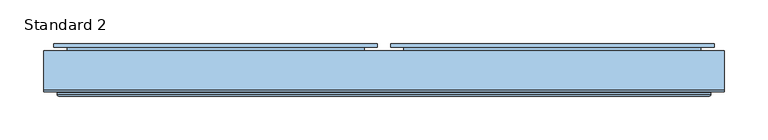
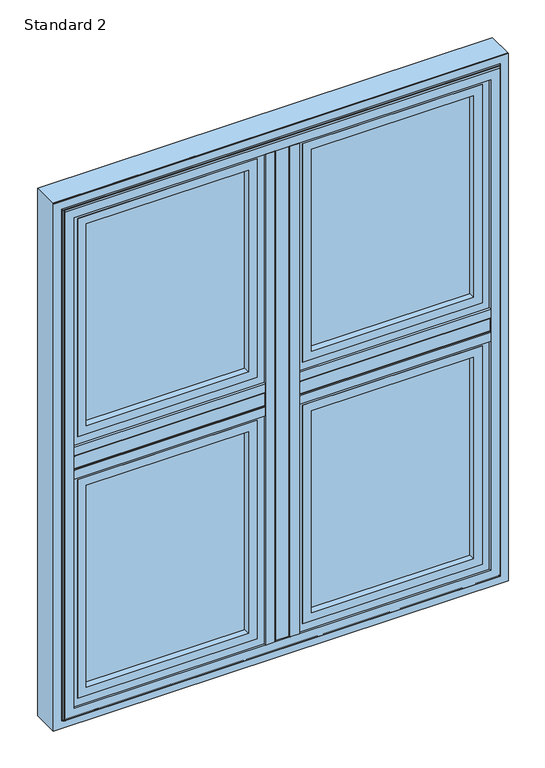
"""IFC4 building model written with IfcOpenShell, lengths in millimetres: window geometry, SMARTS_AlithermHeritage : Standard 2."""

from ifc_helpers import new_model, si_unit, point, frame, frame_2d, origin, place, context, project, spatial, polyline, circle_curve, ellipse_curve, trimmed, segment, composite_curve, outline, extrude, source, transform, mapped, element, save
from ifc_brep_helpers import plane_surface, cylinder_surface, revolved_surface, advanced_brep


def standard_2_6dee1fca(model_context):
    return source(origin(), model_context, "Body", "SolidModel", [
        extrude(outline(polyline([(-13.6941456, 95.2798432), (13.6941456, 95.2798432), (13.6941456, 47.279476), (-13.6941456, 47.279476), (-13.6941456, 95.2798432)])), frame((0.0, 0.0, 652.6941456), z_axis=(0.0, 0.0, 1.0), x_axis=(1.0, 0.0, 0.0)), (0.0, 0.0, 1.0), 919.6117089),
        extrude(outline(composite_curve([segment(polyline([(-29.0, 47.279476), (29.0, 47.279476), (29.0, 43.2798432), (13.0, 43.2798432)]), True, "CONTINUOUS"), segment(trimmed(circle_curve(frame_2d((13.0, 44.2798432)), 1.0), [point((13.0, 43.2798432))], [point((12.0, 44.2798432))], False, "CARTESIAN"), True, "CONTINUOUS"), segment(polyline([(12.0, 44.2798432), (12.0, 45.7798432), (-12.0, 45.7798432), (-12.0, 44.2798432)]), True, "CONTINUOUS"), segment(trimmed(circle_curve(frame_2d((-13.0, 44.2798432)), 1.0), [point((-12.0, 44.2798432))], [point((-13.0, 43.2798432))], False, "CARTESIAN"), True, "CONTINUOUS"), segment(polyline([(-13.0, 43.2798432), (-29.0, 43.2798432), (-29.0, 47.279476)]), True, "CONTINUOUS")], self_intersect=False)), frame((0.0, 0.0, 668.0), z_axis=(0.0, 0.0, 1.0), x_axis=(1.0, 0.0, 0.0)), (0.0, 0.0, 1.0), 889.0),
        extrude(outline(polyline([(-13.6941456, 95.2798432), (-13.6941456, 47.279476), (-372.3058544, 47.279476), (-372.3058544, 95.2798432), (-13.6941456, 95.2798432)])), frame((0.0, 0.0, 1098.8058544), z_axis=(0.0, 0.0, 1.0), x_axis=(1.0, 0.0, 0.0)), (0.0, 0.0, 1.0), 27.3882911),
        extrude(outline(composite_curve([segment(polyline([(47.279476, 1083.5), (43.2798432, 1083.5), (43.2798432, 1099.5)]), True, "CONTINUOUS"), segment(trimmed(circle_curve(frame_2d((44.2798432, 1099.5)), 1.0), [point((43.2798432, 1099.5))], [point((44.2798432, 1100.5))], False, "CARTESIAN"), True, "CONTINUOUS"), segment(polyline([(44.2798432, 1100.5), (45.7798432, 1100.5), (45.7798432, 1124.5), (44.2798432, 1124.5)]), True, "CONTINUOUS"), segment(trimmed(circle_curve(frame_2d((44.2798432, 1125.5)), 1.0), [point((44.2798432, 1124.5))], [point((43.2798432, 1125.5))], False, "CARTESIAN"), True, "CONTINUOUS"), segment(polyline([(43.2798432, 1125.5), (43.2798432, 1141.5), (47.279476, 1141.5), (47.279476, 1083.5)]), True, "CONTINUOUS")], self_intersect=False)), frame((-357.0, 0.0, 0.0), z_axis=(1.0, 0.0, 0.0), x_axis=(0.0, 1.0, 0.0)), (0.0, 0.0, 1.0), 328.0),
        extrude(outline(polyline([(372.3058544, 95.2798432), (372.3058544, 47.279476), (13.6941456, 47.279476), (13.6941456, 95.2798432), (372.3058544, 95.2798432)])), frame((0.0, 0.0, 1098.8058544), z_axis=(0.0, 0.0, 1.0), x_axis=(1.0, 0.0, 0.0)), (0.0, 0.0, 1.0), 27.3882911),
        extrude(outline(composite_curve([segment(polyline([(47.279476, 1083.5), (43.2798432, 1083.5), (43.2798432, 1099.5)]), True, "CONTINUOUS"), segment(trimmed(circle_curve(frame_2d((44.2798432, 1099.5)), 1.0), [point((43.2798432, 1099.5))], [point((44.2798432, 1100.5))], False, "CARTESIAN"), True, "CONTINUOUS"), segment(polyline([(44.2798432, 1100.5), (45.7798432, 1100.5), (45.7798432, 1124.5), (44.2798432, 1124.5)]), True, "CONTINUOUS"), segment(trimmed(circle_curve(frame_2d((44.2798432, 1125.5)), 1.0), [point((44.2798432, 1124.5))], [point((43.2798432, 1125.5))], False, "CARTESIAN"), True, "CONTINUOUS"), segment(polyline([(43.2798432, 1125.5), (43.2798432, 1141.5), (47.279476, 1141.5), (47.279476, 1083.5)]), True, "CONTINUOUS")], self_intersect=False)), frame((29.0, 0.0, 0.0), z_axis=(1.0, 0.0, 0.0), x_axis=(0.0, 1.0, 0.0)), (0.0, 0.0, 1.0), 328.0),
        extrude(outline(polyline([(-343.5, 89.2798432), (-42.5, 89.2798432), (-42.5, 85.2798432), (-343.5, 85.2798432), (-343.5, 89.2798432)])), frame((0.0, 0.0, 681.5), z_axis=(0.0, 0.0, 1.0), x_axis=(1.0, 0.0, 0.0)), (0.0, 0.0, 1.0), 388.5),
        extrude(outline(polyline([(-343.5, 69.2798432), (-42.5, 69.2798432), (-42.5, 65.2798432), (-343.5, 65.2798432), (-343.5, 69.2798432)])), frame((0.0, 0.0, 681.5), z_axis=(0.0, 0.0, 1.0), x_axis=(1.0, 0.0, 0.0)), (0.0, 0.0, 1.0), 388.5),
        extrude(outline(polyline([(1070.0, -343.5), (681.5, -343.5), (681.5, -42.5), (1070.0, -42.5), (1070.0, -343.5)]), holes=[polyline([(1060.0, -52.5), (691.5, -52.5), (691.5, -333.5), (1060.0, -333.5), (1060.0, -52.5)])]), frame((0.0, 69.2798432, 0.0), z_axis=(0.0, 1.0, 0.0), x_axis=(0.0, 0.0, 1.0)), (0.0, 0.0, 1.0), 16.0),
        extrude(outline(polyline([(1073.5052956, -347.0052956), (677.9947044, -347.0052956), (677.9947044, -38.9947044), (1073.5052956, -38.9947044), (1073.5052956, -347.0052956)]), holes=[polyline([(1058.5, -54.0), (693.0, -54.0), (693.0, -332.0), (1058.5, -332.0), (1058.5, -54.0)])]), frame((0.0, 51.2798432, 0.0), z_axis=(0.0, 1.0, 0.0), x_axis=(0.0, 0.0, 1.0)), (0.0, 0.0, 1.0), 11.3),
        extrude(outline(polyline([(662.3548042, -362.6451958), (662.3548042, -23.3548042), (1089.1451958, -23.3548042), (1089.1451958, -362.6451958), (662.3548042, -362.6451958)]), holes=[polyline([(1073.5, -347.0), (1073.5, -39.0), (678.0, -39.0), (678.0, -347.0), (1073.5, -347.0)])]), frame((0.0, 51.2798432, 0.0), z_axis=(0.0, 1.0, 0.0), x_axis=(0.0, 0.0, 1.0)), (0.0, 0.0, 1.0), 41.6),
        advanced_brep(
        [(-332.0, 98.0798432, 1058.5), (-332.0, 92.8798432, 1058.5), (-332.0, 92.8798432, 693.0), (-332.0, 98.0798432, 693.0), (-54.0, 92.8798432, 693.0), (-54.0, 98.0798432, 693.0), (-54.0, 92.8798432, 1058.5), (-54.0, 98.0798432, 1058.5), (-378.2, 99.2798432, 1104.7), (-378.2, 103.2798432, 1104.7), (-378.2, 103.2798432, 646.8), (-378.2, 99.2798432, 646.8), (-7.8, 103.2798432, 646.8), (-7.8, 99.2798432, 646.8), (-7.8, 103.2798432, 1104.7), (-7.8, 99.2798432, 1104.7), (-363.1467657, 99.2798432, 1089.6467657), (-22.8532343, 99.2798432, 1089.6467657), (-22.8532343, 99.2798432, 661.8532343), (-363.1467657, 99.2798432, 661.8532343), (-349.2, 103.2798432, 675.8), (-36.8, 103.2798432, 675.8), (-36.8, 103.2798432, 1075.7), (-349.2, 103.2798432, 1075.7), (-363.1467657, 92.8798432, 1089.6467657), (-363.1467657, 92.8798432, 661.8532343), (-22.8532343, 92.8798432, 661.8532343), (-22.8532343, 92.8798432, 1089.6467657), (-347.2, 101.2798432, 1073.7), (-347.2, 100.0798432, 1073.7), (-347.2, 100.0798432, 677.8), (-347.2, 101.2798432, 677.8), (-345.2, 98.0798432, 1071.7), (-345.2, 98.0798432, 679.8), (-38.8, 100.0798432, 677.8), (-38.8, 101.2798432, 677.8), (-40.8, 98.0798432, 679.8), (-38.8, 100.0798432, 1073.7), (-38.8, 101.2798432, 1073.7), (-40.8, 98.0798432, 1071.7)],
        [
            (0, 1),
            (1, 2),
            (2, 3),
            (3, 0),
            (2, 4),
            (4, 5),
            (5, 3),
            (4, 6),
            (6, 7),
            (7, 5),
            (6, 1),
            (0, 7),
            (8, 9),
            (9, 10),
            (10, 11),
            (11, 8),
            (10, 12),
            (12, 13),
            (13, 11),
            (12, 14),
            (14, 15),
            (15, 13),
            (15, 8),
            (16, 17),
            (17, 18),
            (18, 19),
            (19, 16),
            (14, 9),
            (20, 21),
            (21, 22),
            (22, 23),
            (23, 20),
            (24, 16),
            (19, 25),
            (25, 24),
            (18, 26),
            (26, 25),
            (17, 27),
            (27, 26),
            (27, 24),
            (28, 29),
            (29, 30),
            (30, 31),
            (31, 28),
            (29, 32, ellipse_curve(frame((-345.2, 100.0798432, 1071.7), z_axis=(0.7071067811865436, 0.0, 0.7071067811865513), x_axis=(0.7071067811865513, 0.0, -0.7071067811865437)), 2.8284271, 2.0)),
            (32, 33),
            (33, 30, ellipse_curve(frame((-345.2, 100.0798432, 679.8), z_axis=(0.7071067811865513, 0.0, -0.7071067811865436), x_axis=(-0.7071067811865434, 0.0, -0.7071067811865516)), 2.8284271, 2.0)),
            (30, 34),
            (34, 35),
            (35, 31),
            (33, 36),
            (36, 34, ellipse_curve(frame((-40.8, 100.0798432, 679.8), z_axis=(0.7071067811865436, 0.0, 0.7071067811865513), x_axis=(0.7071067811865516, 0.0, -0.7071067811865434)), 2.8284271, 2.0)),
            (34, 37),
            (37, 38),
            (38, 35),
            (36, 39),
            (39, 37, ellipse_curve(frame((-40.8, 100.0798432, 1071.7), z_axis=(-0.7071067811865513, 0.0, 0.7071067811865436), x_axis=(0.7071067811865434, 0.0, 0.7071067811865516)), 2.8284271, 2.0)),
            (32, 39),
            (37, 29),
            (28, 38),
            (23, 28, ellipse_curve(frame((-349.2, 101.2798432, 1075.7), z_axis=(-0.7071067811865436, 0.0, -0.7071067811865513), x_axis=(-0.7071067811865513, 0.0, 0.7071067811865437)), 2.8284271, 2.0)),
            (31, 20, ellipse_curve(frame((-349.2, 101.2798432, 675.8), z_axis=(-0.7071067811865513, 0.0, 0.7071067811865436), x_axis=(0.7071067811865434, 0.0, 0.7071067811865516)), 2.8284271, 2.0)),
            (35, 21, ellipse_curve(frame((-36.8, 101.2798432, 675.8), z_axis=(-0.7071067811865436, 0.0, -0.7071067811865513), x_axis=(-0.7071067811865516, 0.0, 0.7071067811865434)), 2.8284271, 2.0)),
            (38, 22, ellipse_curve(frame((-36.8, 101.2798432, 1075.7), z_axis=(0.7071067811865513, 0.0, -0.7071067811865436), x_axis=(-0.7071067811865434, 0.0, -0.7071067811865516)), 2.8284271, 2.0)),
        ],
        [
            plane_surface(frame((-332.0, 92.8798432, 1058.5), z_axis=(1.0, 0.0, 0.0), x_axis=(0.0, 0.0, -1.0))),
            plane_surface(frame((-332.0, 92.8798432, 693.0), z_axis=(0.0, 0.0, 1.0), x_axis=(1.0, 0.0, 0.0))),
            plane_surface(frame((-54.0, 92.8798432, 693.0), z_axis=(-1.0, 0.0, 0.0), x_axis=(0.0, 0.0, 1.0))),
            plane_surface(frame((-54.0, 92.8798432, 1058.5), z_axis=(0.0, 0.0, -1.0), x_axis=(-1.0, 0.0, 0.0))),
            plane_surface(frame((-378.2, 103.2798432, 1104.7), z_axis=(-1.0, 0.0, 0.0), x_axis=(0.0, 0.0, -1.0))),
            plane_surface(frame((-378.2, 103.2798432, 646.8), z_axis=(0.0, 0.0, -1.0), x_axis=(1.0, 0.0, 0.0))),
            plane_surface(frame((-7.8, 103.2798432, 646.8), z_axis=(1.0, 0.0, 0.0), x_axis=(0.0, 0.0, 1.0))),
            plane_surface(frame((-7.8, 99.2798432, 1104.7), z_axis=(0.0, -1.0, 0.0), x_axis=(-1.0, 0.0, 0.0))),
            plane_surface(frame((-7.8, 103.2798432, 1104.7), z_axis=(0.0, 0.0, 1.0), x_axis=(-1.0, 0.0, 0.0))),
            plane_surface(frame((-36.8, 103.2798432, 1075.7), z_axis=(0.0, 1.0, 0.0), x_axis=(-1.0, 0.0, 0.0))),
            plane_surface(frame((-363.1467657, 99.2798432, 1089.6467657), z_axis=(-1.0, 0.0, 0.0), x_axis=(0.0, 0.0, -1.0))),
            plane_surface(frame((-363.1467657, 99.2798432, 661.8532343), z_axis=(0.0, 0.0, -1.0), x_axis=(1.0, 0.0, 0.0))),
            plane_surface(frame((-22.8532343, 99.2798432, 661.8532343), z_axis=(1.0, 0.0, 0.0), x_axis=(0.0, 0.0, 1.0))),
            plane_surface(frame((-22.8532343, 92.8798432, 1089.6467657), z_axis=(0.0, -1.0, 0.0), x_axis=(-1.0, 0.0, 0.0))),
            plane_surface(frame((-22.8532343, 99.2798432, 1089.6467657), z_axis=(0.0, 0.0, 1.0), x_axis=(-1.0, 0.0, 0.0))),
            plane_surface(frame((-347.2, 100.0798432, 1073.7), z_axis=(1.0, 0.0, 0.0), x_axis=(0.0, 0.0, -1.0))),
            revolved_surface(polyline([(-347.2, 100.0798432, 677.8), (-347.2, 100.0798432, 1073.7)]), (-345.2, 100.0798432, 1083.5), (0.0, 0.0, -1.0)),
            plane_surface(frame((-347.2, 100.0798432, 677.8), z_axis=(0.0, 0.0, 1.0), x_axis=(1.0, 0.0, 0.0))),
            revolved_surface(polyline([(-38.80000000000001, 100.0798432, 677.8), (-347.2, 100.0798432, 677.8)]), (-357.0, 100.0798432, 679.8), (1.0, 0.0, 0.0)),
            plane_surface(frame((-38.8, 100.0798432, 677.8), z_axis=(-1.0, 0.0, 0.0), x_axis=(0.0, 0.0, 1.0))),
            revolved_surface(polyline([(-38.8, 100.0798432, 1073.7), (-38.8, 100.0798432, 677.8)]), (-40.8, 100.0798432, 668.0), (0.0, 0.0, 1.0)),
            plane_surface(frame((-54.0, 98.0798432, 1058.5), z_axis=(0.0, 1.0, 0.0), x_axis=(-1.0, 0.0, 0.0))),
            plane_surface(frame((-38.8, 100.0798432, 1073.7), z_axis=(0.0, 0.0, -1.0), x_axis=(-1.0, 0.0, 0.0))),
            revolved_surface(polyline([(-347.2, 100.0798432, 1073.7), (-38.8, 100.0798432, 1073.7)]), (-29.0, 100.0798432, 1071.7), (-1.0, 0.0, 0.0)),
            cylinder_surface(frame((-349.2, 101.2798432, 1083.5), z_axis=(0.0, 0.0, 1.0), x_axis=(-1.0, 0.0, 0.0)), 2.0),
            cylinder_surface(frame((-357.0, 101.2798432, 675.8), z_axis=(-1.0, 0.0, 0.0), x_axis=(0.0, 0.0, -1.0)), 2.0),
            cylinder_surface(frame((-36.8, 101.2798432, 668.0), z_axis=(0.0, 0.0, -1.0), x_axis=(1.0, 0.0, 0.0)), 2.0),
            cylinder_surface(frame((-29.0, 101.2798432, 1075.7), z_axis=(1.0, 0.0, 0.0), x_axis=(0.0, 0.0, 1.0)), 2.0),
        ],
        [
            (0, [[1, 2, 3, 4]]),
            (1, [[-3, 5, 6, 7]]),
            (2, [[-6, 8, 9, 10]]),
            (3, [[-9, 11, -1, 12]]),
            (4, [[13, 14, 15, 16]]),
            (5, [[-15, 17, 18, 19]]),
            (6, [[-18, 20, 21, 22]]),
            (7, [[-19, -22, 23, -16], [24, 25, 26, 27]]),
            (8, [[-21, 28, -13, -23]]),
            (9, [[-28, -20, -17, -14], [29, 30, 31, 32]]),
            (10, [[33, -27, 34, 35]]),
            (11, [[-34, -26, 36, 37]]),
            (12, [[-36, -25, 38, 39]]),
            (13, [[-37, -39, 40, -35], [-11, -8, -5, -2]]),
            (14, [[-38, -24, -33, -40]]),
            (15, [[41, 42, 43, 44]]),
            (16, [[45, 46, 47, -42]]),
            (17, [[-43, 48, 49, 50]]),
            (18, [[-47, 51, 52, -48]]),
            (19, [[-49, 53, 54, 55]]),
            (20, [[-52, 56, 57, -53]]),
            (21, [[58, -56, -51, -46], [-7, -10, -12, -4]]),
            (22, [[-54, 59, -41, 60]]),
            (23, [[-57, -58, -45, -59]]),
            (24, [[61, -44, 62, -32]]),
            (25, [[-62, -50, 63, -29]]),
            (26, [[-63, -55, 64, -30]]),
            (27, [[-64, -60, -61, -31]]),
        ],
    ),
        extrude(outline(polyline([(-343.5, 89.2798432), (-42.5, 89.2798432), (-42.5, 85.2798432), (-343.5, 85.2798432), (-343.5, 89.2798432)])), frame((0.0, 0.0, 1155.0), z_axis=(0.0, 0.0, 1.0), x_axis=(1.0, 0.0, 0.0)), (0.0, 0.0, 1.0), 388.5),
        extrude(outline(polyline([(-343.5, 69.2798432), (-42.5, 69.2798432), (-42.5, 65.2798432), (-343.5, 65.2798432), (-343.5, 69.2798432)])), frame((0.0, 0.0, 1155.0), z_axis=(0.0, 0.0, 1.0), x_axis=(1.0, 0.0, 0.0)), (0.0, 0.0, 1.0), 388.5),
        extrude(outline(polyline([(1543.5, -343.5), (1155.0, -343.5), (1155.0, -42.5), (1543.5, -42.5), (1543.5, -343.5)]), holes=[polyline([(1533.5, -52.5), (1165.0, -52.5), (1165.0, -333.5), (1533.5, -333.5), (1533.5, -52.5)])]), frame((0.0, 69.2798432, 0.0), z_axis=(0.0, 1.0, 0.0), x_axis=(0.0, 0.0, 1.0)), (0.0, 0.0, 1.0), 16.0),
        extrude(outline(polyline([(1547.0052956, -347.0052956), (1151.4947044, -347.0052956), (1151.4947044, -38.9947044), (1547.0052956, -38.9947044), (1547.0052956, -347.0052956)]), holes=[polyline([(1532.0, -54.0), (1166.5, -54.0), (1166.5, -332.0), (1532.0, -332.0), (1532.0, -54.0)])]), frame((0.0, 51.2798432, 0.0), z_axis=(0.0, 1.0, 0.0), x_axis=(0.0, 0.0, 1.0)), (0.0, 0.0, 1.0), 11.3),
        extrude(outline(polyline([(1135.8548042, -362.6451958), (1135.8548042, -23.3548042), (1562.6451958, -23.3548042), (1562.6451958, -362.6451958), (1135.8548042, -362.6451958)]), holes=[polyline([(1547.0, -347.0), (1547.0, -39.0), (1151.5, -39.0), (1151.5, -347.0), (1547.0, -347.0)])]), frame((0.0, 51.2798432, 0.0), z_axis=(0.0, 1.0, 0.0), x_axis=(0.0, 0.0, 1.0)), (0.0, 0.0, 1.0), 41.6),
        advanced_brep(
        [(-332.0, 98.0798432, 1532.0), (-332.0, 92.8798432, 1532.0), (-332.0, 92.8798432, 1166.5), (-332.0, 98.0798432, 1166.5), (-54.0, 92.8798432, 1166.5), (-54.0, 98.0798432, 1166.5), (-54.0, 92.8798432, 1532.0), (-54.0, 98.0798432, 1532.0), (-378.2, 99.2798432, 1578.2), (-378.2, 103.2798432, 1578.2), (-378.2, 103.2798432, 1120.3), (-378.2, 99.2798432, 1120.3), (-7.8, 103.2798432, 1120.3), (-7.8, 99.2798432, 1120.3), (-7.8, 103.2798432, 1578.2), (-7.8, 99.2798432, 1578.2), (-363.1467657, 99.2798432, 1563.1467657), (-22.8532343, 99.2798432, 1563.1467657), (-22.8532343, 99.2798432, 1135.3532343), (-363.1467657, 99.2798432, 1135.3532343), (-349.2, 103.2798432, 1149.3), (-36.8, 103.2798432, 1149.3), (-36.8, 103.2798432, 1549.2), (-349.2, 103.2798432, 1549.2), (-363.1467657, 92.8798432, 1563.1467657), (-363.1467657, 92.8798432, 1135.3532343), (-22.8532343, 92.8798432, 1135.3532343), (-22.8532343, 92.8798432, 1563.1467657), (-347.2, 101.2798432, 1547.2), (-347.2, 100.0798432, 1547.2), (-347.2, 100.0798432, 1151.3), (-347.2, 101.2798432, 1151.3), (-345.2, 98.0798432, 1545.2), (-345.2, 98.0798432, 1153.3), (-38.8, 100.0798432, 1151.3), (-38.8, 101.2798432, 1151.3), (-40.8, 98.0798432, 1153.3), (-38.8, 100.0798432, 1547.2), (-38.8, 101.2798432, 1547.2), (-40.8, 98.0798432, 1545.2)],
        [
            (0, 1),
            (1, 2),
            (2, 3),
            (3, 0),
            (2, 4),
            (4, 5),
            (5, 3),
            (4, 6),
            (6, 7),
            (7, 5),
            (6, 1),
            (0, 7),
            (8, 9),
            (9, 10),
            (10, 11),
            (11, 8),
            (10, 12),
            (12, 13),
            (13, 11),
            (12, 14),
            (14, 15),
            (15, 13),
            (15, 8),
            (16, 17),
            (17, 18),
            (18, 19),
            (19, 16),
            (14, 9),
            (20, 21),
            (21, 22),
            (22, 23),
            (23, 20),
            (24, 16),
            (19, 25),
            (25, 24),
            (18, 26),
            (26, 25),
            (17, 27),
            (27, 26),
            (27, 24),
            (28, 29),
            (29, 30),
            (30, 31),
            (31, 28),
            (29, 32, ellipse_curve(frame((-345.2, 100.0798432, 1545.2), z_axis=(0.7071067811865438, 0.0, 0.7071067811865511), x_axis=(0.707106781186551, 0.0, -0.7071067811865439)), 2.8284271, 2.0)),
            (32, 33),
            (33, 30, ellipse_curve(frame((-345.2, 100.0798432, 1153.3), z_axis=(0.7071067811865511, 0.0, -0.7071067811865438), x_axis=(-0.7071067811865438, 0.0, -0.7071067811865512)), 2.8284271, 2.0)),
            (30, 34),
            (34, 35),
            (35, 31),
            (33, 36),
            (36, 34, ellipse_curve(frame((-40.8, 100.0798432, 1153.3), z_axis=(0.7071067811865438, 0.0, 0.7071067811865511), x_axis=(0.7071067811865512, 0.0, -0.7071067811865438)), 2.8284271, 2.0)),
            (34, 37),
            (37, 38),
            (38, 35),
            (36, 39),
            (39, 37, ellipse_curve(frame((-40.8, 100.0798432, 1545.2), z_axis=(-0.7071067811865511, 0.0, 0.7071067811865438), x_axis=(0.7071067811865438, 0.0, 0.7071067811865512)), 2.8284271, 2.0)),
            (32, 39),
            (37, 29),
            (28, 38),
            (23, 28, ellipse_curve(frame((-349.2, 101.2798432, 1549.2), z_axis=(-0.7071067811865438, 0.0, -0.7071067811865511), x_axis=(-0.707106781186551, 0.0, 0.7071067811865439)), 2.8284271, 2.0)),
            (31, 20, ellipse_curve(frame((-349.2, 101.2798432, 1149.3), z_axis=(-0.7071067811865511, 0.0, 0.7071067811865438), x_axis=(0.7071067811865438, 0.0, 0.7071067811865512)), 2.8284271, 2.0)),
            (35, 21, ellipse_curve(frame((-36.8, 101.2798432, 1149.3), z_axis=(-0.7071067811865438, 0.0, -0.7071067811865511), x_axis=(-0.7071067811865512, 0.0, 0.7071067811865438)), 2.8284271, 2.0)),
            (38, 22, ellipse_curve(frame((-36.8, 101.2798432, 1549.2), z_axis=(0.7071067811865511, 0.0, -0.7071067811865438), x_axis=(-0.7071067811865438, 0.0, -0.7071067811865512)), 2.8284271, 2.0)),
        ],
        [
            plane_surface(frame((-332.0, 92.8798432, 1532.0), z_axis=(1.0, 0.0, 0.0), x_axis=(0.0, 0.0, -1.0))),
            plane_surface(frame((-332.0, 92.8798432, 1166.5), z_axis=(0.0, 0.0, 1.0), x_axis=(1.0, 0.0, 0.0))),
            plane_surface(frame((-54.0, 92.8798432, 1166.5), z_axis=(-1.0, 0.0, 0.0), x_axis=(0.0, 0.0, 1.0))),
            plane_surface(frame((-54.0, 92.8798432, 1532.0), z_axis=(0.0, 0.0, -1.0), x_axis=(-1.0, 0.0, 0.0))),
            plane_surface(frame((-378.2, 103.2798432, 1578.2), z_axis=(-1.0, 0.0, 0.0), x_axis=(0.0, 0.0, -1.0))),
            plane_surface(frame((-378.2, 103.2798432, 1120.3), z_axis=(0.0, 0.0, -1.0), x_axis=(1.0, 0.0, 0.0))),
            plane_surface(frame((-7.8, 103.2798432, 1120.3), z_axis=(1.0, 0.0, 0.0), x_axis=(0.0, 0.0, 1.0))),
            plane_surface(frame((-7.8, 99.2798432, 1578.2), z_axis=(0.0, -1.0, 0.0), x_axis=(-1.0, 0.0, 0.0))),
            plane_surface(frame((-7.8, 103.2798432, 1578.2), z_axis=(0.0, 0.0, 1.0), x_axis=(-1.0, 0.0, 0.0))),
            plane_surface(frame((-36.8, 103.2798432, 1549.2), z_axis=(0.0, 1.0, 0.0), x_axis=(-1.0, 0.0, 0.0))),
            plane_surface(frame((-363.1467657, 99.2798432, 1563.1467657), z_axis=(-1.0, 0.0, 0.0), x_axis=(0.0, 0.0, -1.0))),
            plane_surface(frame((-363.1467657, 99.2798432, 1135.3532343), z_axis=(0.0, 0.0, -1.0), x_axis=(1.0, 0.0, 0.0))),
            plane_surface(frame((-22.8532343, 99.2798432, 1135.3532343), z_axis=(1.0, 0.0, 0.0), x_axis=(0.0, 0.0, 1.0))),
            plane_surface(frame((-22.8532343, 92.8798432, 1563.1467657), z_axis=(0.0, -1.0, 0.0), x_axis=(-1.0, 0.0, 0.0))),
            plane_surface(frame((-22.8532343, 99.2798432, 1563.1467657), z_axis=(0.0, 0.0, 1.0), x_axis=(-1.0, 0.0, 0.0))),
            plane_surface(frame((-347.2, 100.0798432, 1547.2), z_axis=(1.0, 0.0, 0.0), x_axis=(0.0, 0.0, -1.0))),
            revolved_surface(polyline([(-347.2, 100.0798432, 1151.3), (-347.2, 100.0798432, 1547.2)]), (-345.2, 100.0798432, 1557.0), (0.0, 0.0, -1.0)),
            plane_surface(frame((-347.2, 100.0798432, 1151.3), z_axis=(0.0, 0.0, 1.0), x_axis=(1.0, 0.0, 0.0))),
            revolved_surface(polyline([(-38.80000000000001, 100.0798432, 1151.3), (-347.2, 100.0798432, 1151.3)]), (-357.0, 100.0798432, 1153.3), (1.0, 0.0, 0.0)),
            plane_surface(frame((-38.8, 100.0798432, 1151.3), z_axis=(-1.0, 0.0, 0.0), x_axis=(0.0, 0.0, 1.0))),
            revolved_surface(polyline([(-38.8, 100.0798432, 1547.2), (-38.8, 100.0798432, 1151.3)]), (-40.8, 100.0798432, 1141.5), (0.0, 0.0, 1.0)),
            plane_surface(frame((-54.0, 98.0798432, 1532.0), z_axis=(0.0, 1.0, 0.0), x_axis=(-1.0, 0.0, 0.0))),
            plane_surface(frame((-38.8, 100.0798432, 1547.2), z_axis=(0.0, 0.0, -1.0), x_axis=(-1.0, 0.0, 0.0))),
            revolved_surface(polyline([(-347.2, 100.0798432, 1547.2), (-38.8, 100.0798432, 1547.2)]), (-29.0, 100.0798432, 1545.2), (-1.0, 0.0, 0.0)),
            cylinder_surface(frame((-349.2, 101.2798432, 1557.0), z_axis=(0.0, 0.0, 1.0), x_axis=(-1.0, 0.0, 0.0)), 2.0),
            cylinder_surface(frame((-357.0, 101.2798432, 1149.3), z_axis=(-1.0, 0.0, 0.0), x_axis=(0.0, 0.0, -1.0)), 2.0),
            cylinder_surface(frame((-36.8, 101.2798432, 1141.5), z_axis=(0.0, 0.0, -1.0), x_axis=(1.0, 0.0, 0.0)), 2.0),
            cylinder_surface(frame((-29.0, 101.2798432, 1549.2), z_axis=(1.0, 0.0, 0.0), x_axis=(0.0, 0.0, 1.0)), 2.0),
        ],
        [
            (0, [[1, 2, 3, 4]]),
            (1, [[-3, 5, 6, 7]]),
            (2, [[-6, 8, 9, 10]]),
            (3, [[-9, 11, -1, 12]]),
            (4, [[13, 14, 15, 16]]),
            (5, [[-15, 17, 18, 19]]),
            (6, [[-18, 20, 21, 22]]),
            (7, [[-19, -22, 23, -16], [24, 25, 26, 27]]),
            (8, [[-21, 28, -13, -23]]),
            (9, [[-28, -20, -17, -14], [29, 30, 31, 32]]),
            (10, [[33, -27, 34, 35]]),
            (11, [[-34, -26, 36, 37]]),
            (12, [[-36, -25, 38, 39]]),
            (13, [[-37, -39, 40, -35], [-11, -8, -5, -2]]),
            (14, [[-38, -24, -33, -40]]),
            (15, [[41, 42, 43, 44]]),
            (16, [[45, 46, 47, -42]]),
            (17, [[-43, 48, 49, 50]]),
            (18, [[-47, 51, 52, -48]]),
            (19, [[-49, 53, 54, 55]]),
            (20, [[-52, 56, 57, -53]]),
            (21, [[58, -56, -51, -46], [-7, -10, -12, -4]]),
            (22, [[-54, 59, -41, 60]]),
            (23, [[-57, -58, -45, -59]]),
            (24, [[61, -44, 62, -32]]),
            (25, [[-62, -50, 63, -29]]),
            (26, [[-63, -55, 64, -30]]),
            (27, [[-64, -60, -61, -31]]),
        ],
    ),
        extrude(outline(polyline([(42.5, 89.2798432), (343.5, 89.2798432), (343.5, 85.2798432), (42.5, 85.2798432), (42.5, 89.2798432)])), frame((0.0, 0.0, 681.5), z_axis=(0.0, 0.0, 1.0), x_axis=(1.0, 0.0, 0.0)), (0.0, 0.0, 1.0), 388.5),
        extrude(outline(polyline([(42.5, 69.2798432), (343.5, 69.2798432), (343.5, 65.2798432), (42.5, 65.2798432), (42.5, 69.2798432)])), frame((0.0, 0.0, 681.5), z_axis=(0.0, 0.0, 1.0), x_axis=(1.0, 0.0, 0.0)), (0.0, 0.0, 1.0), 388.5),
        extrude(outline(polyline([(1070.0, 42.5), (681.5, 42.5), (681.5, 343.5), (1070.0, 343.5), (1070.0, 42.5)]), holes=[polyline([(1060.0, 333.5), (691.5, 333.5), (691.5, 52.5), (1060.0, 52.5), (1060.0, 333.5)])]), frame((0.0, 69.2798432, 0.0), z_axis=(0.0, 1.0, 0.0), x_axis=(0.0, 0.0, 1.0)), (0.0, 0.0, 1.0), 16.0),
        extrude(outline(polyline([(1073.5052956, 38.9947044), (677.9947044, 38.9947044), (677.9947044, 347.0052956), (1073.5052956, 347.0052956), (1073.5052956, 38.9947044)]), holes=[polyline([(1058.5, 332.0), (693.0, 332.0), (693.0, 54.0), (1058.5, 54.0), (1058.5, 332.0)])]), frame((0.0, 51.2798432, 0.0), z_axis=(0.0, 1.0, 0.0), x_axis=(0.0, 0.0, 1.0)), (0.0, 0.0, 1.0), 11.3),
        extrude(outline(polyline([(662.3548042, 23.3548042), (662.3548042, 362.6451958), (1089.1451958, 362.6451958), (1089.1451958, 23.3548042), (662.3548042, 23.3548042)]), holes=[polyline([(1073.5, 39.0), (1073.5, 347.0), (678.0, 347.0), (678.0, 39.0), (1073.5, 39.0)])]), frame((0.0, 51.2798432, 0.0), z_axis=(0.0, 1.0, 0.0), x_axis=(0.0, 0.0, 1.0)), (0.0, 0.0, 1.0), 41.6),
        advanced_brep(
        [(54.0, 98.0798432, 1058.5), (54.0, 92.8798432, 1058.5), (54.0, 92.8798432, 693.0), (54.0, 98.0798432, 693.0), (332.0, 92.8798432, 693.0), (332.0, 98.0798432, 693.0), (332.0, 92.8798432, 1058.5), (332.0, 98.0798432, 1058.5), (7.8, 99.2798432, 1104.7), (7.8, 103.2798432, 1104.7), (7.8, 103.2798432, 646.8), (7.8, 99.2798432, 646.8), (378.2, 103.2798432, 646.8), (378.2, 99.2798432, 646.8), (378.2, 103.2798432, 1104.7), (378.2, 99.2798432, 1104.7), (22.8532343, 99.2798432, 1089.6467657), (363.1467657, 99.2798432, 1089.6467657), (363.1467657, 99.2798432, 661.8532343), (22.8532343, 99.2798432, 661.8532343), (36.8, 103.2798432, 675.8), (349.2, 103.2798432, 675.8), (349.2, 103.2798432, 1075.7), (36.8, 103.2798432, 1075.7), (22.8532343, 92.8798432, 1089.6467657), (22.8532343, 92.8798432, 661.8532343), (363.1467657, 92.8798432, 661.8532343), (363.1467657, 92.8798432, 1089.6467657), (38.8, 101.2798432, 1073.7), (38.8, 100.0798432, 1073.7), (38.8, 100.0798432, 677.8), (38.8, 101.2798432, 677.8), (40.8, 98.0798432, 1071.7), (40.8, 98.0798432, 679.8), (347.2, 100.0798432, 677.8), (347.2, 101.2798432, 677.8), (345.2, 98.0798432, 679.8), (347.2, 100.0798432, 1073.7), (347.2, 101.2798432, 1073.7), (345.2, 98.0798432, 1071.7)],
        [
            (0, 1),
            (1, 2),
            (2, 3),
            (3, 0),
            (2, 4),
            (4, 5),
            (5, 3),
            (4, 6),
            (6, 7),
            (7, 5),
            (6, 1),
            (0, 7),
            (8, 9),
            (9, 10),
            (10, 11),
            (11, 8),
            (10, 12),
            (12, 13),
            (13, 11),
            (12, 14),
            (14, 15),
            (15, 13),
            (15, 8),
            (16, 17),
            (17, 18),
            (18, 19),
            (19, 16),
            (14, 9),
            (20, 21),
            (21, 22),
            (22, 23),
            (23, 20),
            (24, 16),
            (19, 25),
            (25, 24),
            (18, 26),
            (26, 25),
            (17, 27),
            (27, 26),
            (27, 24),
            (28, 29),
            (29, 30),
            (30, 31),
            (31, 28),
            (29, 32, ellipse_curve(frame((40.8, 100.0798432, 1071.7), z_axis=(0.7071067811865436, 0.0, 0.7071067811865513), x_axis=(0.7071067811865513, 0.0, -0.7071067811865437)), 2.8284271, 2.0)),
            (32, 33),
            (33, 30, ellipse_curve(frame((40.8, 100.0798432, 679.8), z_axis=(0.7071067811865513, 0.0, -0.7071067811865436), x_axis=(-0.7071067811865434, 0.0, -0.7071067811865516)), 2.8284271, 2.0)),
            (30, 34),
            (34, 35),
            (35, 31),
            (33, 36),
            (36, 34, ellipse_curve(frame((345.2, 100.0798432, 679.8), z_axis=(0.7071067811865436, 0.0, 0.7071067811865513), x_axis=(0.7071067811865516, 0.0, -0.7071067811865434)), 2.8284271, 2.0)),
            (34, 37),
            (37, 38),
            (38, 35),
            (36, 39),
            (39, 37, ellipse_curve(frame((345.2, 100.0798432, 1071.7), z_axis=(-0.7071067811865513, 0.0, 0.7071067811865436), x_axis=(0.7071067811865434, 0.0, 0.7071067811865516)), 2.8284271, 2.0)),
            (32, 39),
            (37, 29),
            (28, 38),
            (23, 28, ellipse_curve(frame((36.8, 101.2798432, 1075.7), z_axis=(-0.7071067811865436, 0.0, -0.7071067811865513), x_axis=(-0.7071067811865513, 0.0, 0.7071067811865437)), 2.8284271, 2.0)),
            (31, 20, ellipse_curve(frame((36.8, 101.2798432, 675.8), z_axis=(-0.7071067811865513, 0.0, 0.7071067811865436), x_axis=(0.7071067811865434, 0.0, 0.7071067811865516)), 2.8284271, 2.0)),
            (35, 21, ellipse_curve(frame((349.2, 101.2798432, 675.8), z_axis=(-0.7071067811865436, 0.0, -0.7071067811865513), x_axis=(-0.7071067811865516, 0.0, 0.7071067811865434)), 2.8284271, 2.0)),
            (38, 22, ellipse_curve(frame((349.2, 101.2798432, 1075.7), z_axis=(0.7071067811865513, 0.0, -0.7071067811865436), x_axis=(-0.7071067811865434, 0.0, -0.7071067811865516)), 2.8284271, 2.0)),
        ],
        [
            plane_surface(frame((54.0, 92.8798432, 1058.5), z_axis=(1.0, 0.0, 0.0), x_axis=(0.0, 0.0, -1.0))),
            plane_surface(frame((54.0, 92.8798432, 693.0), z_axis=(0.0, 0.0, 1.0), x_axis=(1.0, 0.0, 0.0))),
            plane_surface(frame((332.0, 92.8798432, 693.0), z_axis=(-1.0, 0.0, 0.0), x_axis=(0.0, 0.0, 1.0))),
            plane_surface(frame((332.0, 92.8798432, 1058.5), z_axis=(0.0, 0.0, -1.0), x_axis=(-1.0, 0.0, 0.0))),
            plane_surface(frame((7.8, 103.2798432, 1104.7), z_axis=(-1.0, 0.0, 0.0), x_axis=(0.0, 0.0, -1.0))),
            plane_surface(frame((7.8, 103.2798432, 646.8), z_axis=(0.0, 0.0, -1.0), x_axis=(1.0, 0.0, 0.0))),
            plane_surface(frame((378.2, 103.2798432, 646.8), z_axis=(1.0, 0.0, 0.0), x_axis=(0.0, 0.0, 1.0))),
            plane_surface(frame((378.2, 99.2798432, 1104.7), z_axis=(0.0, -1.0, 0.0), x_axis=(-1.0, 0.0, 0.0))),
            plane_surface(frame((378.2, 103.2798432, 1104.7), z_axis=(0.0, 0.0, 1.0), x_axis=(-1.0, 0.0, 0.0))),
            plane_surface(frame((349.2, 103.2798432, 1075.7), z_axis=(0.0, 1.0, 0.0), x_axis=(-1.0, 0.0, 0.0))),
            plane_surface(frame((22.8532343, 99.2798432, 1089.6467657), z_axis=(-1.0, 0.0, 0.0), x_axis=(0.0, 0.0, -1.0))),
            plane_surface(frame((22.8532343, 99.2798432, 661.8532343), z_axis=(0.0, 0.0, -1.0), x_axis=(1.0, 0.0, 0.0))),
            plane_surface(frame((363.1467657, 99.2798432, 661.8532343), z_axis=(1.0, 0.0, 0.0), x_axis=(0.0, 0.0, 1.0))),
            plane_surface(frame((363.1467657, 92.8798432, 1089.6467657), z_axis=(0.0, -1.0, 0.0), x_axis=(-1.0, 0.0, 0.0))),
            plane_surface(frame((363.1467657, 99.2798432, 1089.6467657), z_axis=(0.0, 0.0, 1.0), x_axis=(-1.0, 0.0, 0.0))),
            plane_surface(frame((38.8, 100.0798432, 1073.7), z_axis=(1.0, 0.0, 0.0), x_axis=(0.0, 0.0, -1.0))),
            revolved_surface(polyline([(38.8, 100.0798432, 677.8), (38.8, 100.0798432, 1073.7)]), (40.8, 100.0798432, 1083.5), (0.0, 0.0, -1.0)),
            plane_surface(frame((38.8, 100.0798432, 677.8), z_axis=(0.0, 0.0, 1.0), x_axis=(1.0, 0.0, 0.0))),
            revolved_surface(polyline([(347.2, 100.0798432, 677.8), (38.8, 100.0798432, 677.8)]), (29.0, 100.0798432, 679.8), (1.0, 0.0, 0.0)),
            plane_surface(frame((347.2, 100.0798432, 677.8), z_axis=(-1.0, 0.0, 0.0), x_axis=(0.0, 0.0, 1.0))),
            revolved_surface(polyline([(347.2, 100.0798432, 1073.7), (347.2, 100.0798432, 677.8)]), (345.2, 100.0798432, 668.0), (0.0, 0.0, 1.0)),
            plane_surface(frame((332.0, 98.0798432, 1058.5), z_axis=(0.0, 1.0, 0.0), x_axis=(-1.0, 0.0, 0.0))),
            plane_surface(frame((347.2, 100.0798432, 1073.7), z_axis=(0.0, 0.0, -1.0), x_axis=(-1.0, 0.0, 0.0))),
            revolved_surface(polyline([(38.80000000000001, 100.0798432, 1073.7), (347.2, 100.0798432, 1073.7)]), (357.0, 100.0798432, 1071.7), (-1.0, 0.0, 0.0)),
            cylinder_surface(frame((36.8, 101.2798432, 1083.5), z_axis=(0.0, 0.0, 1.0), x_axis=(-1.0, 0.0, 0.0)), 2.0),
            cylinder_surface(frame((29.0, 101.2798432, 675.8), z_axis=(-1.0, 0.0, 0.0), x_axis=(0.0, 0.0, -1.0)), 2.0),
            cylinder_surface(frame((349.2, 101.2798432, 668.0), z_axis=(0.0, 0.0, -1.0), x_axis=(1.0, 0.0, 0.0)), 2.0),
            cylinder_surface(frame((357.0, 101.2798432, 1075.7), z_axis=(1.0, 0.0, 0.0), x_axis=(0.0, 0.0, 1.0)), 2.0),
        ],
        [
            (0, [[1, 2, 3, 4]]),
            (1, [[-3, 5, 6, 7]]),
            (2, [[-6, 8, 9, 10]]),
            (3, [[-9, 11, -1, 12]]),
            (4, [[13, 14, 15, 16]]),
            (5, [[-15, 17, 18, 19]]),
            (6, [[-18, 20, 21, 22]]),
            (7, [[-19, -22, 23, -16], [24, 25, 26, 27]]),
            (8, [[-21, 28, -13, -23]]),
            (9, [[-28, -20, -17, -14], [29, 30, 31, 32]]),
            (10, [[33, -27, 34, 35]]),
            (11, [[-34, -26, 36, 37]]),
            (12, [[-36, -25, 38, 39]]),
            (13, [[-37, -39, 40, -35], [-11, -8, -5, -2]]),
            (14, [[-38, -24, -33, -40]]),
            (15, [[41, 42, 43, 44]]),
            (16, [[45, 46, 47, -42]]),
            (17, [[-43, 48, 49, 50]]),
            (18, [[-47, 51, 52, -48]]),
            (19, [[-49, 53, 54, 55]]),
            (20, [[-52, 56, 57, -53]]),
            (21, [[58, -56, -51, -46], [-7, -10, -12, -4]]),
            (22, [[-54, 59, -41, 60]]),
            (23, [[-57, -58, -45, -59]]),
            (24, [[61, -44, 62, -32]]),
            (25, [[-62, -50, 63, -29]]),
            (26, [[-63, -55, 64, -30]]),
            (27, [[-64, -60, -61, -31]]),
        ],
    ),
        extrude(outline(polyline([(1590.0, 390.0), (1590.0, -390.0), (635.0, -390.0), (635.0, 390.0), (1590.0, 390.0)]), holes=[polyline([(652.7000182, 372.2999818), (652.7000182, -372.2999818), (1572.2999818, -372.2999818), (1572.2999818, 372.2999818), (652.7000182, 372.2999818)])]), frame((0.0, 50.279857, 0.0), z_axis=(0.0, 1.0, 0.0), x_axis=(0.0, 0.0, 1.0)), (0.0, 0.0, 1.0), 44.9999962),
        advanced_brep(
        [(357.0, 43.2798432, 1557.0), (357.0, 47.2798432, 1557.0), (357.0, 47.2798432, 668.0), (357.0, 43.2798432, 668.0), (390.0, 50.279857, 1590.0), (390.0, 48.279857, 1590.0), (390.0, 48.279857, 635.0), (390.0, 50.279857, 635.0), (372.4999818, 43.2798432, 1572.4999818), (-372.4999818, 43.2798432, 1572.4999818), (-372.4999818, 43.2798432, 652.5000182), (372.4999818, 43.2798432, 652.5000182), (-357.0, 43.2798432, 668.0), (-357.0, 43.2798432, 1557.0), (-390.0, 50.279857, 1590.0), (-390.0, 48.279857, 1590.0), (-390.0, 50.279857, 635.0), (372.2999818, 50.279857, 1572.2999818), (-372.2999818, 50.279857, 1572.2999818), (-372.2999818, 50.279857, 652.7000182), (372.2999818, 50.279857, 652.7000182), (-357.0, 47.2798432, 1557.0), (-357.0, 47.2798432, 668.0), (-390.0, 48.279857, 635.0), (-372.2999818, 47.2798432, 1572.2999818), (372.2999818, 47.2798432, 1572.2999818), (372.2999818, 47.2798432, 652.7000182), (374.4999818, 46.779857, 650.5000182), (374.4999818, 45.2798432, 650.5000182), (-374.4999818, 45.2798432, 650.5000182), (-374.4999818, 46.779857, 650.5000182), (374.4999818, 46.779857, 1574.4999818), (374.4999818, 45.2798432, 1574.4999818), (-372.2999818, 47.2798432, 652.7000182), (-374.4999818, 45.2798432, 1574.4999818), (-374.4999818, 46.779857, 1574.4999818), (375.9999818, 48.279857, 1575.9999818), (375.9999818, 48.279857, 649.0000182), (-375.9999818, 48.279857, 649.0000182), (-375.9999818, 48.279857, 1575.9999818)],
        [
            (0, 1),
            (1, 2),
            (2, 3),
            (3, 0),
            (4, 5),
            (5, 6),
            (6, 7),
            (7, 4),
            (8, 9),
            (9, 10),
            (10, 11),
            (11, 8),
            (3, 12),
            (12, 13),
            (13, 0),
            (14, 15),
            (15, 5),
            (4, 14),
            (7, 16),
            (16, 14),
            (17, 18),
            (18, 19),
            (19, 20),
            (20, 17),
            (13, 21),
            (21, 1),
            (2, 22),
            (22, 12),
            (22, 21),
            (6, 23),
            (23, 16),
            (23, 15),
            (24, 18),
            (17, 25),
            (25, 24),
            (20, 26),
            (26, 25),
            (27, 28),
            (28, 29),
            (29, 30),
            (30, 27),
            (31, 32),
            (32, 28),
            (27, 31),
            (19, 33),
            (33, 26),
            (24, 33),
            (29, 34),
            (34, 35),
            (35, 30),
            (34, 32),
            (31, 35),
            (36, 31, ellipse_curve(frame((375.9999818, 46.779857, 1575.9999818), z_axis=(-0.7071067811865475, 0.0, 0.7071067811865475), x_axis=(-0.7071067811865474, 0.0, -0.7071067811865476)), 2.1213203, 1.5)),
            (27, 37, ellipse_curve(frame((375.9999818, 46.779857, 649.0000182), z_axis=(-0.7071067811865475, 0.0, -0.7071067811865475), x_axis=(0.7071067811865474, 0.0, -0.7071067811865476)), 2.1213203, 1.5)),
            (37, 36),
            (30, 38, ellipse_curve(frame((-375.9999818, 46.779857, 649.0000182), z_axis=(-0.7071067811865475, 0.0, 0.7071067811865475), x_axis=(-0.7071067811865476, 0.0, -0.7071067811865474)), 2.1213203, 1.5)),
            (38, 37),
            (35, 39, ellipse_curve(frame((-375.9999818, 46.779857, 1575.9999818), z_axis=(0.7071067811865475, 0.0, 0.7071067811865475), x_axis=(-0.7071067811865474, 0.0, 0.7071067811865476)), 2.1213203, 1.5)),
            (39, 38),
            (36, 39),
            (32, 8, ellipse_curve(frame((372.4999818, 45.2798432, 1572.4999818), z_axis=(0.7071067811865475, 0.0, -0.7071067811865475), x_axis=(0.7071067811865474, 0.0, 0.7071067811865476)), 2.8284271, 2.0)),
            (11, 28, ellipse_curve(frame((372.4999818, 45.2798432, 652.5000182), z_axis=(0.7071067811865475, 0.0, 0.7071067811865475), x_axis=(-0.7071067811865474, 0.0, 0.7071067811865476)), 2.8284271, 2.0)),
            (10, 29, ellipse_curve(frame((-372.4999818, 45.2798432, 652.5000182), z_axis=(0.7071067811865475, 0.0, -0.7071067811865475), x_axis=(0.7071067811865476, 0.0, 0.7071067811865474)), 2.8284271, 2.0)),
            (9, 34, ellipse_curve(frame((-372.4999818, 45.2798432, 1572.4999818), z_axis=(-0.7071067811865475, 0.0, -0.7071067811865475), x_axis=(0.7071067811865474, 0.0, -0.7071067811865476)), 2.8284271, 2.0)),
        ],
        [
            plane_surface(frame((357.0, 47.2798432, 1557.0), z_axis=(-1.0, 0.0, 0.0), x_axis=(0.0, 0.0, -1.0))),
            plane_surface(frame((390.0, 48.279857, 1590.0), z_axis=(1.0, 0.0, 0.0), x_axis=(0.0, 0.0, -1.0))),
            plane_surface(frame((-357.0, 43.2798432, 1557.0), z_axis=(0.0, -1.0, 0.0), x_axis=(1.0, 0.0, 0.0))),
            plane_surface(frame((-390.0, 48.279857, 1590.0), z_axis=(0.0, 0.0, 1.0), x_axis=(1.0, 0.0, 0.0))),
            plane_surface(frame((-390.0, 50.279857, 1590.0), z_axis=(0.0, 1.0, 0.0), x_axis=(1.0, 0.0, 0.0))),
            plane_surface(frame((-357.0, 47.2798432, 1557.0), z_axis=(0.0, 0.0, -1.0), x_axis=(1.0, 0.0, 0.0))),
            plane_surface(frame((357.0, 47.2798432, 668.0), z_axis=(0.0, 0.0, 1.0), x_axis=(-1.0, 0.0, 0.0))),
            plane_surface(frame((-357.0, 47.2798432, 668.0), z_axis=(1.0, 0.0, 0.0), x_axis=(0.0, 0.0, 1.0))),
            plane_surface(frame((390.0, 48.279857, 635.0), z_axis=(0.0, 0.0, -1.0), x_axis=(-1.0, 0.0, 0.0))),
            plane_surface(frame((-390.0, 48.279857, 635.0), z_axis=(-1.0, 0.0, 0.0), x_axis=(0.0, 0.0, 1.0))),
            plane_surface(frame((-372.2999818, 50.279857, 1572.2999818), z_axis=(0.0, 0.0, -1.0), x_axis=(1.0, 0.0, 0.0))),
            plane_surface(frame((372.2999818, 50.279857, 1572.2999818), z_axis=(-1.0, 0.0, 0.0), x_axis=(0.0, 0.0, -1.0))),
            plane_surface(frame((374.4999818, 45.2798432, 650.5000182), z_axis=(0.0, 0.0, -1.0), x_axis=(-1.0, 0.0, 0.0))),
            plane_surface(frame((374.4999818, 45.2798432, 1574.4999818), z_axis=(1.0, 0.0, 0.0), x_axis=(0.0, 0.0, -1.0))),
            plane_surface(frame((372.2999818, 50.279857, 652.7000182), z_axis=(0.0, 0.0, 1.0), x_axis=(-1.0, 0.0, 0.0))),
            plane_surface(frame((-372.2999818, 50.279857, 652.7000182), z_axis=(1.0, 0.0, 0.0), x_axis=(0.0, 0.0, 1.0))),
            plane_surface(frame((-374.4999818, 45.2798432, 650.5000182), z_axis=(-1.0, 0.0, 0.0), x_axis=(0.0, 0.0, 1.0))),
            plane_surface(frame((-372.2999818, 47.2798432, 1572.2999818), z_axis=(0.0, 1.0, 0.0), x_axis=(1.0, 0.0, 0.0))),
            plane_surface(frame((-374.4999818, 45.2798432, 1574.4999818), z_axis=(0.0, 0.0, 1.0), x_axis=(1.0, 0.0, 0.0))),
            revolved_surface(polyline([(374.4999818, 46.779857, 647.5000182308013), (374.4999818, 46.779857, 1577.4999817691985)]), (375.9999818, 46.779857, 1590.0), (0.0, 0.0, -1.0)),
            revolved_surface(polyline([(-377.4999817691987, 46.779857, 650.5000182), (377.49998176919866, 46.779857, 650.5000182)]), (390.0, 46.779857, 649.0000182), (-1.0, 0.0, 0.0)),
            revolved_surface(polyline([(-374.4999818, 46.779857, 1577.4999817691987), (-374.4999818, 46.779857, 647.5000182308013)]), (-375.9999818, 46.779857, 635.0), (0.0, 0.0, 1.0)),
            revolved_surface(polyline([(377.4999817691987, 46.779857, 1574.4999818), (-377.49998176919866, 46.779857, 1574.4999818)]), (-390.0, 46.779857, 1575.9999818), (1.0, 0.0, 0.0)),
            plane_surface(frame((-375.9999818, 48.279857, 1575.9999818), z_axis=(0.0, -1.0, 0.0), x_axis=(1.0, 0.0, 0.0))),
            cylinder_surface(frame((372.4999818, 45.2798432, 1590.0), z_axis=(0.0, 0.0, 1.0), x_axis=(-1.0, 0.0, 0.0)), 2.0),
            cylinder_surface(frame((390.0, 45.2798432, 652.5000182), z_axis=(1.0, 0.0, 0.0), x_axis=(0.0, 0.0, 1.0)), 2.0),
            cylinder_surface(frame((-372.4999818, 45.2798432, 635.0), z_axis=(0.0, 0.0, -1.0), x_axis=(1.0, 0.0, 0.0)), 2.0),
            cylinder_surface(frame((-390.0, 45.2798432, 1572.4999818), z_axis=(-1.0, 0.0, 0.0), x_axis=(0.0, 0.0, -1.0)), 2.0),
        ],
        [
            (0, [[1, 2, 3, 4]]),
            (1, [[5, 6, 7, 8]]),
            (2, [[9, 10, 11, 12], [13, 14, 15, -4]]),
            (3, [[16, 17, -5, 18]]),
            (4, [[19, 20, -18, -8], [21, 22, 23, 24]]),
            (5, [[25, 26, -1, -15]]),
            (6, [[-3, 27, 28, -13]]),
            (7, [[-28, 29, -25, -14]]),
            (8, [[-7, 30, 31, -19]]),
            (9, [[-31, 32, -16, -20]]),
            (10, [[33, -21, 34, 35]]),
            (11, [[-34, -24, 36, 37]]),
            (12, [[38, 39, 40, 41]]),
            (13, [[42, 43, -38, 44]]),
            (14, [[-36, -23, 45, 46]]),
            (15, [[-45, -22, -33, 47]]),
            (16, [[-40, 48, 49, 50]]),
            (17, [[-46, -47, -35, -37], [-26, -29, -27, -2]]),
            (18, [[-49, 51, -42, 52]]),
            (19, [[53, -44, 54, 55]]),
            (20, [[-54, -41, 56, 57]]),
            (21, [[-56, -50, 58, 59]]),
            (22, [[-58, -52, -53, 60]]),
            (23, [[-17, -32, -30, -6], [-57, -59, -60, -55]]),
            (24, [[61, -12, 62, -43]]),
            (25, [[-62, -11, 63, -39]]),
            (26, [[-63, -10, 64, -48]]),
            (27, [[-64, -9, -61, -51]]),
        ],
    ),
        extrude(outline(polyline([(42.5, 89.2798432), (343.5, 89.2798432), (343.5, 85.2798432), (42.5, 85.2798432), (42.5, 89.2798432)])), frame((0.0, 0.0, 1155.0), z_axis=(0.0, 0.0, 1.0), x_axis=(1.0, 0.0, 0.0)), (0.0, 0.0, 1.0), 388.5),
        extrude(outline(polyline([(42.5, 69.2798432), (343.5, 69.2798432), (343.5, 65.2798432), (42.5, 65.2798432), (42.5, 69.2798432)])), frame((0.0, 0.0, 1155.0), z_axis=(0.0, 0.0, 1.0), x_axis=(1.0, 0.0, 0.0)), (0.0, 0.0, 1.0), 388.5),
        extrude(outline(polyline([(1543.5, 42.5), (1155.0, 42.5), (1155.0, 343.5), (1543.5, 343.5), (1543.5, 42.5)]), holes=[polyline([(1533.5, 333.5), (1165.0, 333.5), (1165.0, 52.5), (1533.5, 52.5), (1533.5, 333.5)])]), frame((0.0, 69.2798432, 0.0), z_axis=(0.0, 1.0, 0.0), x_axis=(0.0, 0.0, 1.0)), (0.0, 0.0, 1.0), 16.0),
        extrude(outline(polyline([(1547.0052956, 38.9947044), (1151.4947044, 38.9947044), (1151.4947044, 347.0052956), (1547.0052956, 347.0052956), (1547.0052956, 38.9947044)]), holes=[polyline([(1532.0, 332.0), (1166.5, 332.0), (1166.5, 54.0), (1532.0, 54.0), (1532.0, 332.0)])]), frame((0.0, 51.2798432, 0.0), z_axis=(0.0, 1.0, 0.0), x_axis=(0.0, 0.0, 1.0)), (0.0, 0.0, 1.0), 11.3),
        extrude(outline(polyline([(1135.8548042, 23.3548042), (1135.8548042, 362.6451958), (1562.6451958, 362.6451958), (1562.6451958, 23.3548042), (1135.8548042, 23.3548042)]), holes=[polyline([(1547.0, 39.0), (1547.0, 347.0), (1151.5, 347.0), (1151.5, 39.0), (1547.0, 39.0)])]), frame((0.0, 51.2798432, 0.0), z_axis=(0.0, 1.0, 0.0), x_axis=(0.0, 0.0, 1.0)), (0.0, 0.0, 1.0), 41.6),
    ])


if __name__ == "__main__":
    model = new_model("IFC4")
    model_context = context("Model", 3, world=origin())
    ifc_project = project(units=[si_unit("LENGTHUNIT", "METRE", prefix="MILLI")], contexts=[model_context])
    site = spatial("IfcSite", under=ifc_project)
    building = spatial("IfcBuilding", under=site)
    placement = place(None, origin())
    standard_2_shape = standard_2_6dee1fca(model_context)
    element("IfcWindow", 1, ObjectType="SMARTS_AlithermHeritage : Standard 2", at=placement, inside=building, context=model_context, shape_type="MappedRepresentation", body=[
        mapped(standard_2_shape, transform((0.0, 0.0, 0.0), x_axis=(1.0, 0.0, 0.0), y_axis=(0.0, 1.0, 0.0), z_axis=(0.0, 0.0, 1.0))),
    ])
    save(model, "model.ifc")
